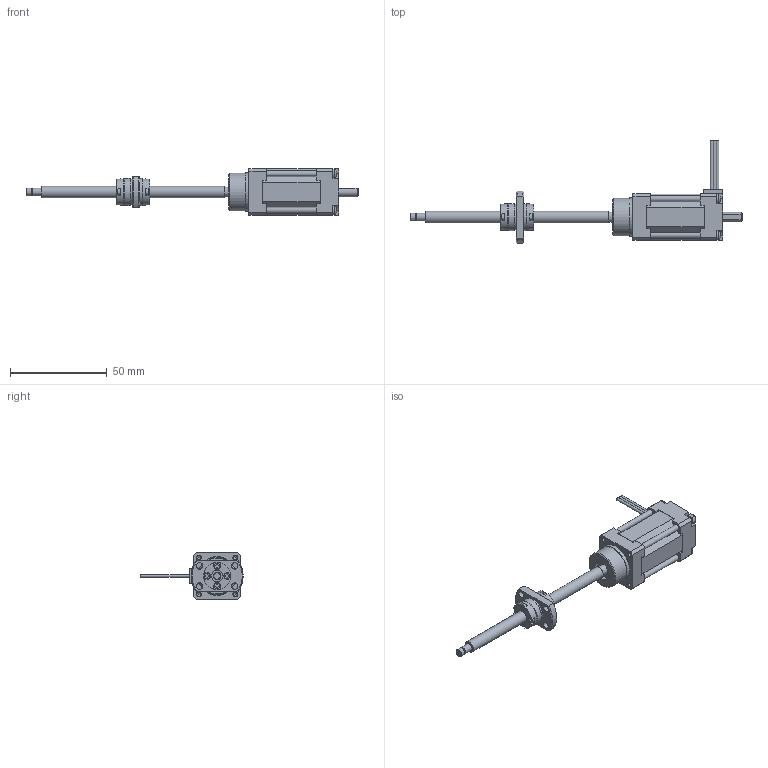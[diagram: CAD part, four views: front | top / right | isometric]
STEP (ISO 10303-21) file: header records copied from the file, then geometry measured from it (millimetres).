
FILE_DESCRIPTION( ( 'STEP AP214' ), ' ' );
FILE_NAME( 'p:/temp/worker_1/3260_1020/app_90_12017090514293905004280260eae72_000000_00_00_000000/format_0/TMB0606(39).stp', '2017-09-05T12:29:39', ( '' ), ( '' ), ' ', 'PARTsolutions', ' ' );
FILE_SCHEMA( ( 'AUTOMOTIVE_DESIGN { 1 0 10303 214 1 1 1 1 }' ) );
Length unit declared in the file: millimetre
Products named in the file (3): TMB0606(39); _TMB0606 (0)motor; _TMB0606 (39)nut
Assembly tree (2 placements, depth 2):
  TMB0606(39)
    _TMB0606 (0)motor
    _TMB0606 (39)nut
Bounding box: 172 x 53 x 24 mm (x, y, z)
Volume: 33747.2 mm3; surface area: 11898.6 mm2
Topology: 2 solids, 2 shells, 323 faces, 838 edges, 552 vertices
Faces by surface type: plane 238, cylinder 64, cone 17, bspline 4
Full cylindrical faces by diameter (mm): 1.5 x3, 2.113 x4, 3 x8, 3.4 x4, 3.7 x1, 4 x2, 5 x4, 5.1 x1, 6 x2, 10 x1, 13.6 x1, 13.8 x2, 14 x2, 19.5 x1, 20 x1
Entity records: 12283 total; most frequent: CARTESIAN_POINT 2015, ORIENTED_EDGE 1532, DIRECTION 1511, EDGE_CURVE 766, LINE 549, VECTOR 549, VERTEX_POINT 537, AXIS2_PLACEMENT_3D 481
